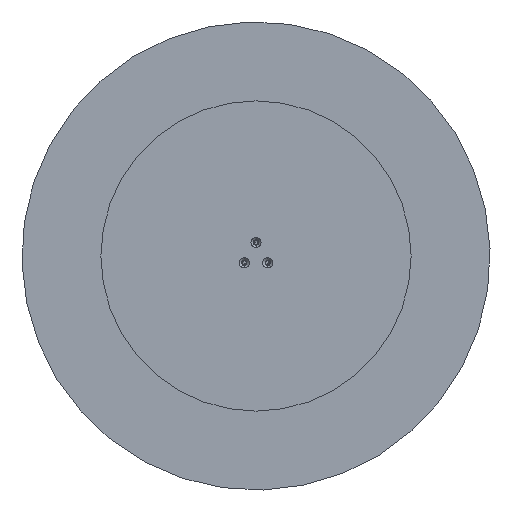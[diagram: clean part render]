
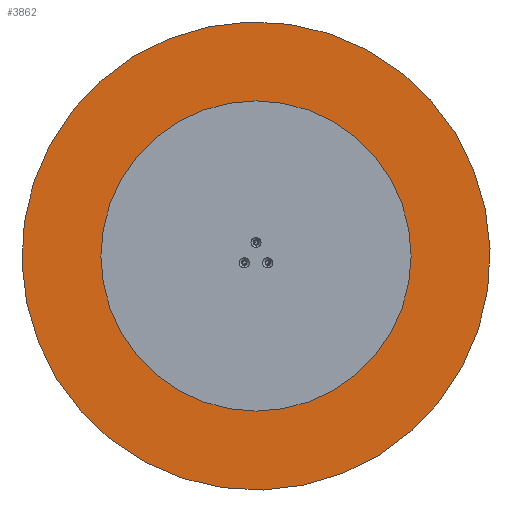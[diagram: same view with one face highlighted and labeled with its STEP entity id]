
A CAD part, front view. The second image highlights one B-rep face of the part: STEP entity #3862.
In plain terms, the highlighted planar face has unit normal (0, -1, 0).
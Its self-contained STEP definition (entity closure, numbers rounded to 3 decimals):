
#3 = CARTESIAN_POINT ( 'NONE',  ( 0., 0., 400. ) ) ;
#220 = AXIS2_PLACEMENT_3D ( 'NONE', #224, #4160, #1850 ) ;
#224 = CARTESIAN_POINT ( 'NONE',  ( 0., 0., 0. ) ) ;
#315 = FACE_OUTER_BOUND ( 'NONE', #4010, .T. ) ;
#342 = CIRCLE ( 'NONE', #2736, 400. ) ;
#470 = VERTEX_POINT ( 'NONE', #4166 ) ;
#608 = CARTESIAN_POINT ( 'NONE',  ( 0., 0., 0. ) ) ;
#1061 = DIRECTION ( 'NONE',  ( 0., -1., 0. ) ) ;
#1106 = VERTEX_POINT ( 'NONE', #3 ) ;
#1605 = PLANE ( 'NONE',  #1909 ) ;
#1707 = ORIENTED_EDGE ( 'NONE', *, *, #3778, .T. ) ;
#1850 = DIRECTION ( 'NONE',  ( 0., 0., -1. ) ) ;
#1909 = AXIS2_PLACEMENT_3D ( 'NONE', #1952, #1061, #3972 ) ;
#1952 = CARTESIAN_POINT ( 'NONE',  ( 0., 0., 0. ) ) ;
#2464 = CIRCLE ( 'NONE', #220, 400. ) ;
#2736 = AXIS2_PLACEMENT_3D ( 'NONE', #608, #4218, #4144 ) ;
#2948 = ORIENTED_EDGE ( 'NONE', *, *, #3669, .T. ) ;
#3669 = EDGE_CURVE ( 'NONE', #470, #1106, #2464, .T. ) ;
#3778 = EDGE_CURVE ( 'NONE', #1106, #470, #342, .T. ) ;
#3862 = ADVANCED_FACE ( 'NONE', ( #315 ), #1605, .T. ) ;
#3972 = DIRECTION ( 'NONE',  ( 0., 0., -1. ) ) ;
#4010 = EDGE_LOOP ( 'NONE', ( #2948, #1707 ) ) ;
#4144 = DIRECTION ( 'NONE',  ( 0., 0., -1. ) ) ;
#4160 = DIRECTION ( 'NONE',  ( 0., -1., 0. ) ) ;
#4166 = CARTESIAN_POINT ( 'NONE',  ( 0., 0., -400. ) ) ;
#4218 = DIRECTION ( 'NONE',  ( 0., -1., 0. ) ) ;
